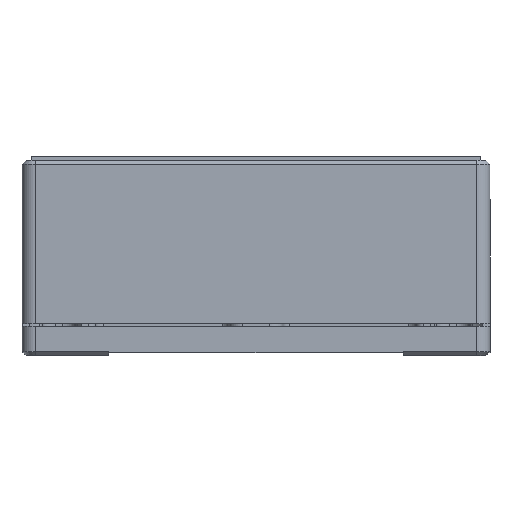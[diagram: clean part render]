
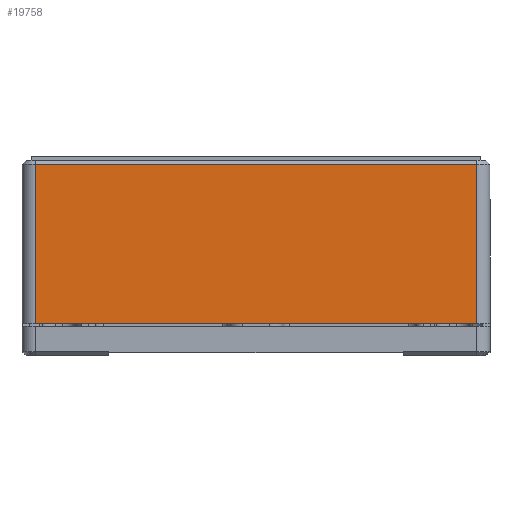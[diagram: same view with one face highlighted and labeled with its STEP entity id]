
A CAD part, front view. The second image highlights one B-rep face of the part: STEP entity #19758.
In plain terms, the highlighted planar face has unit normal (0, -1, 0).
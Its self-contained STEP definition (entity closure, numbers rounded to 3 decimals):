
#16708=DIRECTION('',(1.,0.,0.));
#16709=VECTOR('',#16708,33.);
#16710=CARTESIAN_POINT('',(-16.5,-17.5,-4.8));
#16711=LINE('',#16710,#16709);
#17719=DIRECTION('',(0.,0.,1.));
#17720=VECTOR('',#17719,11.9);
#17721=CARTESIAN_POINT('',(16.5,-17.5,-4.8));
#17722=LINE('',#17721,#17720);
#17723=DIRECTION('',(0.,0.,-1.));
#17724=VECTOR('',#17723,11.9);
#17725=CARTESIAN_POINT('',(-16.5,-17.5,
7.1));
#17726=LINE('',#17725,#17724);
#17727=DIRECTION('',(-1.,0.,0.));
#17728=VECTOR('',#17727,33.);
#17729=CARTESIAN_POINT('',(16.5,-17.5,
7.1));
#17730=LINE('',#17729,#17728);
#18138=CARTESIAN_POINT('',(16.5,-17.5,-4.8));
#18140=VERTEX_POINT('',#18138);
#18149=CARTESIAN_POINT('',(-16.5,-17.5,-4.8));
#18151=VERTEX_POINT('',#18149);
#18155=CARTESIAN_POINT('',(16.5,-17.5,
7.1));
#18156=VERTEX_POINT('',#18155);
#18167=CARTESIAN_POINT('',(-16.5,-17.5,
7.1));
#18168=VERTEX_POINT('',#18167);
#19746=CARTESIAN_POINT('',(-17.5,-17.5,7.7));
#19747=DIRECTION('',(0.,-1.,0.));
#19748=DIRECTION('',(0.,0.,-1.));
#19749=AXIS2_PLACEMENT_3D('',#19746,#19747,#19748);
#19750=PLANE('',#19749);
#19751=ORIENTED_EDGE('',*,*,#18439,.F.);
#19752=ORIENTED_EDGE('',*,*,#18460,.F.);
#19754=ORIENTED_EDGE('',*,*,#19753,.F.);
#19755=ORIENTED_EDGE('',*,*,#19736,.F.);
#19756=EDGE_LOOP('',(#19751,#19752,#19754,#19755));
#19757=FACE_OUTER_BOUND('',#19756,.F.);
#19758=ADVANCED_FACE('',(#19757),#19750,.T.);
#18439=EDGE_CURVE('',#18140,#18156,#17722,.T.);
#18460=EDGE_CURVE('',#18151,#18140,#16711,.T.);
#19736=EDGE_CURVE('',#18156,#18168,#17730,.T.);
#19753=EDGE_CURVE('',#18168,#18151,#17726,.T.);
